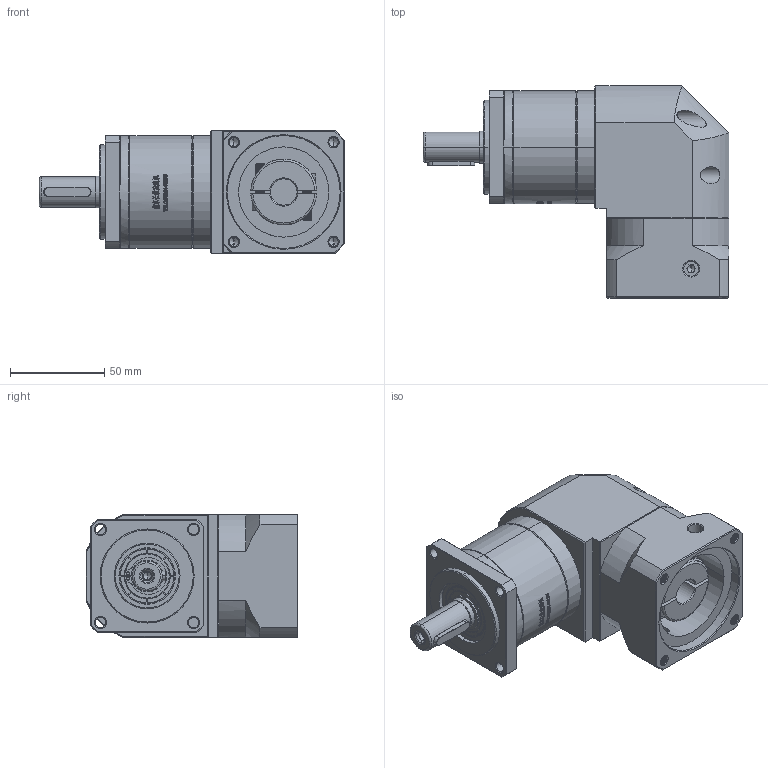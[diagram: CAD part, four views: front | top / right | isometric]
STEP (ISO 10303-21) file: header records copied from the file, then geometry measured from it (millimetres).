
FILE_DESCRIPTION (( 'STEP AP214' ), '1' );
FILE_NAME ('ZFR60-D16-L1-14-60-75-M6.STEP', '2022-04-20T09:08:52', ( '' ), ( 'Microsoft' ), 'SwSTEP 2.0', 'SolidWorks 2016', '' );
FILE_SCHEMA (( 'AUTOMOTIVE_DESIGN' ));
Length unit declared in the file: millimetre
Products named in the file (1): ZFR60-D16-L1-14-60-75-M6
Bounding box: 162.5 x 112.7 x 65 mm (x, y, z)
Volume: 552411.3 mm3; surface area: 80617.8 mm2
Topology: 5 solids, 6 shells, 2692 faces, 7345 edges, 4790 vertices
Faces by surface type: plane 1397, bspline 579, cylinder 402, cone 290, torus 24
Entity records: 149204 total; most frequent: CARTESIAN_POINT 57047, ORIENTED_EDGE 14646, DIRECTION 10548, EDGE_CURVE 7323, VERTEX_POINT 4790, VECTOR 4402, LINE 4402, AXIS2_PLACEMENT_3D 3073
